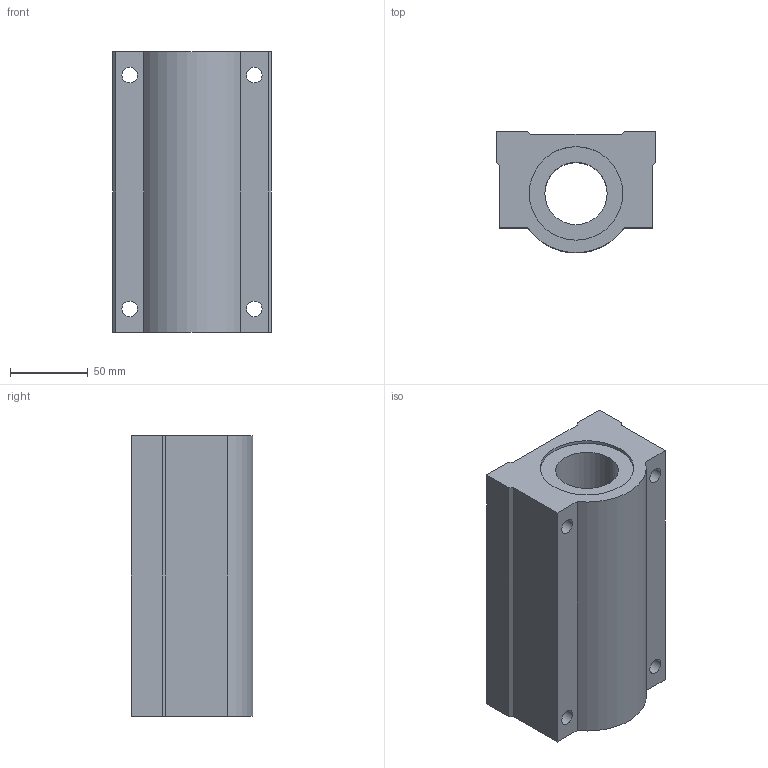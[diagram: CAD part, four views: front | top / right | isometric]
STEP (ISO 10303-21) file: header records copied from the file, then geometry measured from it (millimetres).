
FILE_DESCRIPTION((''),'2;1');
FILE_NAME('C:\Documents and Settings\ｿﾀﾀ蠑ｷ1\ｹﾙﾅﾁ ﾈｭｸ饅\ｺﾎﾇｰﾆﾄﾀﾏ\ﾁｦﾇｰ\SC__WUU\SC40WUU.stp','2005-06-22T14:54:07',('ｿﾀﾀ蠑ｷ1'),(''),'Autodesk Inventor 9','Autodesk Inventor 9','');
FILE_SCHEMA(('AUTOMOTIVE_DESIGN { 1 0 10303 214 1 1 1 1 }'));
Length unit declared in the file: millimetre
Products named in the file (1): SC__UU
Bounding box: 102 x 77.86 x 180 mm (x, y, z)
Volume: 960347.2 mm3; surface area: 101793.4 mm2
Topology: 1 solids, 1 shells, 32 faces, 84 edges, 56 vertices
Faces by surface type: plane 17, bspline 8, cylinder 7
Entity records: 1145 total; most frequent: CARTESIAN_POINT 309, ORIENTED_EDGE 168, DIRECTION 164, EDGE_CURVE 84, VERTEX_POINT 56, AXIS2_PLACEMENT_3D 55, VECTOR 54, LINE 54
